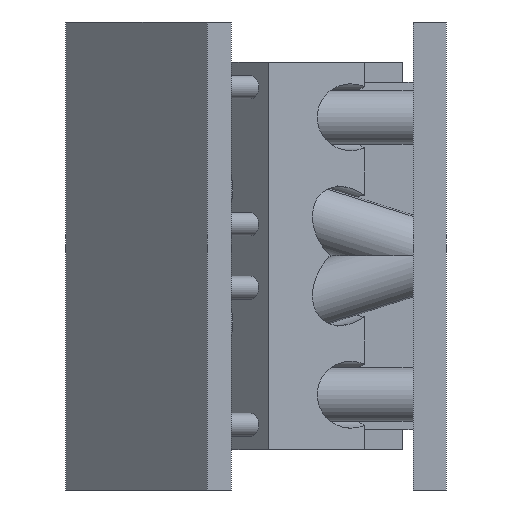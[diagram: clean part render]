
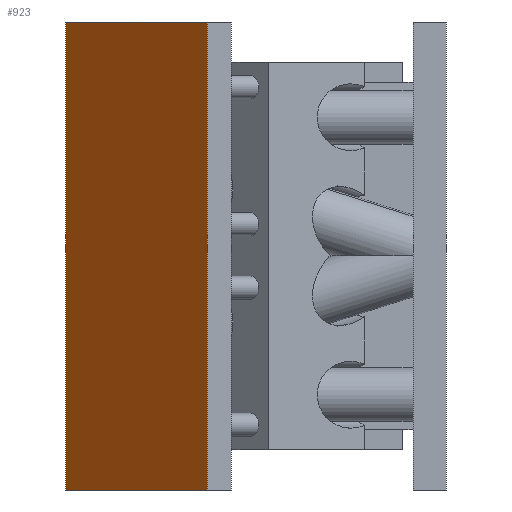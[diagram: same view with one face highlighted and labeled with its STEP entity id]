
A CAD part, front view. The second image highlights one B-rep face of the part: STEP entity #923.
In plain terms, the highlighted planar face has unit normal (-0.707, -0.707, 0).
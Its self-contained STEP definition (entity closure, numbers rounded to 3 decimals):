
#923=ADVANCED_FACE('',(#1935),#1936,.T.);
#1935=FACE_OUTER_BOUND('',#3010,.T.);
#1936=PLANE('',#3011);
#3010=EDGE_LOOP('',(#5978,#5979,#5980,#5981));
#3011=AXIS2_PLACEMENT_3D('',#5982,#5983,#5984);
#5978=ORIENTED_EDGE('',*,*,#7913,.T.);
#5979=ORIENTED_EDGE('',*,*,#7529,.F.);
#5980=ORIENTED_EDGE('',*,*,#7588,.F.);
#5981=ORIENTED_EDGE('',*,*,#7914,.T.);
#5982=CARTESIAN_POINT('',(39.269,-82.731,-10.0));
#5983=DIRECTION('',(-0.707,-0.707,0.));
#5984=DIRECTION('',(0.707,-0.707,0.));
#7529=EDGE_CURVE('',#9482,#9480,#9484,.T.);
#7588=EDGE_CURVE('',#9560,#9482,#9562,.T.);
#7913=EDGE_CURVE('',#9968,#9480,#9969,.T.);
#7914=EDGE_CURVE('',#9560,#9968,#9970,.T.);
#9480=VERTEX_POINT('',#15096);
#9482=VERTEX_POINT('',#15099);
#9484=LINE('',#15102,#15103);
#9560=VERTEX_POINT('',#15361);
#9562=LINE('',#15364,#15365);
#9968=VERTEX_POINT('',#16980);
#9969=LINE('',#16981,#16982);
#9970=LINE('',#16983,#16984);
#15096=CARTESIAN_POINT('',(18.055,-61.518,130.0));
#15099=CARTESIAN_POINT('',(18.055,-61.518,-10.0));
#15102=CARTESIAN_POINT('',(18.055,-61.518,-10.0));
#15103=VECTOR('',#18449,1.0);
#15361=CARTESIAN_POINT('',(60.482,-103.945,-10.0));
#15364=CARTESIAN_POINT('',(60.482,-103.945,-10.0));
#15365=VECTOR('',#18526,1.0);
#16980=CARTESIAN_POINT('',(60.482,-103.945,130.0));
#16981=CARTESIAN_POINT('',(60.482,-103.945,130.0));
#16982=VECTOR('',#18844,1.0);
#16983=CARTESIAN_POINT('',(60.482,-103.945,-10.0));
#16984=VECTOR('',#18845,1.0);
#18449=DIRECTION('',(0.0,0.,1.0));
#18526=DIRECTION('',(-0.707,0.707,0.));
#18844=DIRECTION('',(-0.707,0.707,0.));
#18845=DIRECTION('',(0.0,0.,1.0));
